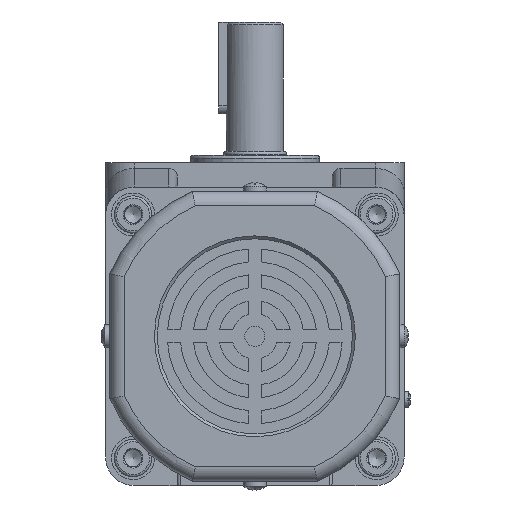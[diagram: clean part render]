
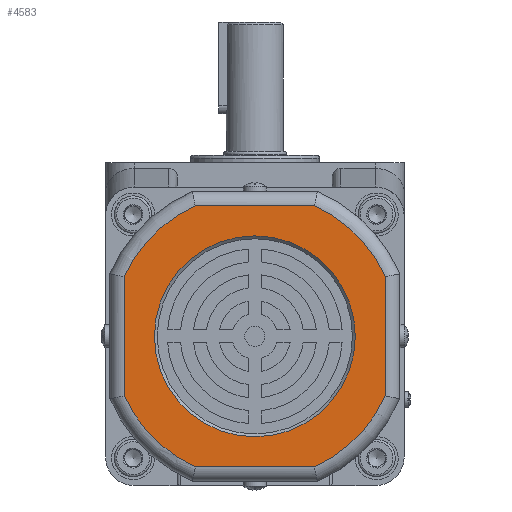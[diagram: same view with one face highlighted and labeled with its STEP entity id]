
A CAD part, front view. The second image highlights one B-rep face of the part: STEP entity #4583.
In plain terms, the highlighted planar face has unit normal (0, -1, 0).
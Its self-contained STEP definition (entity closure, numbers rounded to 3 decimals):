
#1611=PLANE('',#13480);
#2781=LINE('',#19455,#3617);
#2782=LINE('',#19471,#3618);
#2785=LINE('',#19523,#3621);
#2786=LINE('',#19539,#3622);
#3617=VECTOR('',#15479,1.);
#3618=VECTOR('',#15482,1.);
#3621=VECTOR('',#15499,1.);
#3622=VECTOR('',#15502,1.);
#4583=ADVANCED_FACE('',(#5185,#5186),#1611,.F.);
#5185=FACE_BOUND('',#5747,.T.);
#5186=FACE_BOUND('',#5748,.T.);
#5747=EDGE_LOOP('',(#7576,#7577,#7578,#7579,#7580,#7581,#7582,#7583));
#5748=EDGE_LOOP('',(#7584));
#7576=ORIENTED_EDGE('',*,*,#11168,.T.);
#7577=ORIENTED_EDGE('',*,*,#11163,.T.);
#7578=ORIENTED_EDGE('',*,*,#11170,.T.);
#7579=ORIENTED_EDGE('',*,*,#11176,.T.);
#7580=ORIENTED_EDGE('',*,*,#11182,.T.);
#7581=ORIENTED_EDGE('',*,*,#11184,.T.);
#7582=ORIENTED_EDGE('',*,*,#11180,.T.);
#7583=ORIENTED_EDGE('',*,*,#11174,.T.);
#7584=ORIENTED_EDGE('',*,*,#11161,.T.);
#9928=VERTEX_POINT('',#19407);
#9930=VERTEX_POINT('',#19422);
#9931=VERTEX_POINT('',#19424);
#9933=VERTEX_POINT('',#19452);
#9936=VERTEX_POINT('',#19470);
#9937=VERTEX_POINT('',#19486);
#9940=VERTEX_POINT('',#19504);
#9941=VERTEX_POINT('',#19520);
#9944=VERTEX_POINT('',#19538);
#11161=EDGE_CURVE('',#9928,#9928,#12370,.T.);
#11163=EDGE_CURVE('',#9931,#9930,#12371,.T.);
#11168=EDGE_CURVE('',#9933,#9931,#2781,.T.);
#11170=EDGE_CURVE('',#9930,#9936,#2782,.T.);
#11174=EDGE_CURVE('',#9937,#9933,#12374,.T.);
#11176=EDGE_CURVE('',#9936,#9940,#12375,.T.);
#11180=EDGE_CURVE('',#9941,#9937,#2785,.T.);
#11182=EDGE_CURVE('',#9940,#9944,#2786,.T.);
#11184=EDGE_CURVE('',#9944,#9941,#12377,.T.);
#12370=CIRCLE('',#13395,35.);
#12371=CIRCLE('',#13397,50.);
#12374=CIRCLE('',#13403,50.);
#12375=CIRCLE('',#13405,50.);
#12377=CIRCLE('',#13410,50.);
#13395=AXIS2_PLACEMENT_3D('',#19406,#15468,#15469);
#13397=AXIS2_PLACEMENT_3D('',#19423,#15472,#15473);
#13403=AXIS2_PLACEMENT_3D('',#19489,#15488,#15489);
#13405=AXIS2_PLACEMENT_3D('',#19505,#15492,#15493);
#13410=AXIS2_PLACEMENT_3D('',#19542,#15506,#15507);
#13480=AXIS2_PLACEMENT_3D('',#19710,#15680,#15681);
#15468=DIRECTION('',(0.,1.,0.));
#15469=DIRECTION('',(-1.,0.,0.));
#15472=DIRECTION('',(0.,-1.,0.));
#15473=DIRECTION('',(-1.,0.,0.));
#15479=DIRECTION('',(0.,0.,1.));
#15482=DIRECTION('',(-1.,0.,0.));
#15488=DIRECTION('',(0.,-1.,0.));
#15489=DIRECTION('',(-1.,0.,0.));
#15492=DIRECTION('',(0.,-1.,0.));
#15493=DIRECTION('',(-1.,0.,0.));
#15499=DIRECTION('',(1.,0.,0.));
#15502=DIRECTION('',(0.,0.,-1.));
#15506=DIRECTION('',(0.,-1.,0.));
#15507=DIRECTION('',(-1.,0.,0.));
#15680=DIRECTION('',(0.,1.,0.));
#15681=DIRECTION('',(-1.,0.,0.));
#19406=CARTESIAN_POINT('',(0.,-279.5,-60.5));
#19407=CARTESIAN_POINT('',(-35.,-279.5,-60.5));
#19422=CARTESIAN_POINT('',(20.73,-279.5,-15.));
#19423=CARTESIAN_POINT('',(0.,-279.5,-60.5));
#19424=CARTESIAN_POINT('',(45.5,-279.5,-39.77));
#19452=CARTESIAN_POINT('',(45.5,-279.5,-81.23));
#19455=CARTESIAN_POINT('',(45.5,-279.5,-38.711));
#19470=CARTESIAN_POINT('',(-20.73,-279.5,-15.));
#19471=CARTESIAN_POINT('',(-21.789,-279.5,-15.));
#19486=CARTESIAN_POINT('',(20.73,-279.5,-106.));
#19489=CARTESIAN_POINT('',(0.,-279.5,-60.5));
#19504=CARTESIAN_POINT('',(-45.5,-279.5,-39.77));
#19505=CARTESIAN_POINT('',(0.,-279.5,-60.5));
#19520=CARTESIAN_POINT('',(-20.73,-279.5,-106.));
#19523=CARTESIAN_POINT('',(21.789,-279.5,-106.));
#19538=CARTESIAN_POINT('',(-45.5,-279.5,-81.23));
#19539=CARTESIAN_POINT('',(-45.5,-279.5,-82.289));
#19542=CARTESIAN_POINT('',(0.,-279.5,-60.5));
#19710=CARTESIAN_POINT('',(0.,-279.5,-60.5));
